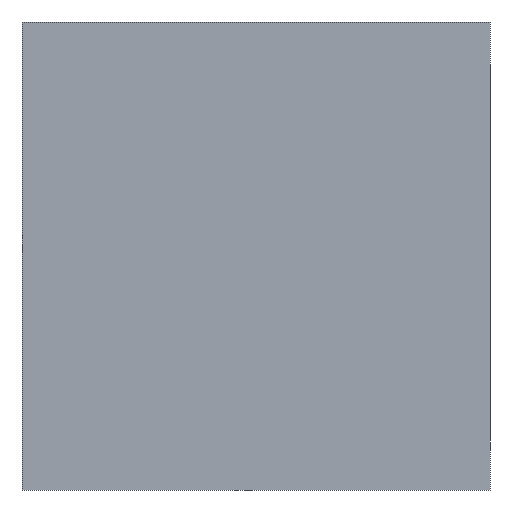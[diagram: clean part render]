
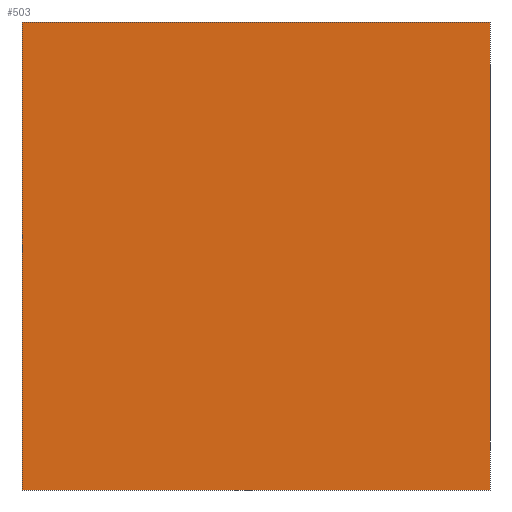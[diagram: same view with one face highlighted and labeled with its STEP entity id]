
A CAD part, front view. The second image highlights one B-rep face of the part: STEP entity #503.
In plain terms, the highlighted planar face has unit normal (0, -1, 0).
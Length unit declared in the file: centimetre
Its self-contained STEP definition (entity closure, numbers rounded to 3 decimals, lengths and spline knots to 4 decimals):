
#7 = CARTESIAN_POINT ( 'NONE',  ( 1000., 0., 1000. ) ) ;
#14 = EDGE_CURVE ( 'NONE', #297, #351, #250, .T. ) ;
#30 = CARTESIAN_POINT ( 'NONE',  ( 1000., 0., 1000. ) ) ;
#32 = CARTESIAN_POINT ( 'NONE',  ( 0., 0., 0. ) ) ;
#83 = DIRECTION ( 'NONE',  ( 0., 0., -1. ) ) ;
#96 = CARTESIAN_POINT ( 'NONE',  ( 1000., 0., 0. ) ) ;
#156 = VERTEX_POINT ( 'NONE', #96 ) ;
#169 = DIRECTION ( 'NONE',  ( 0., 1., 0. ) ) ;
#187 = ORIENTED_EDGE ( 'NONE', *, *, #443, .F. ) ;
#207 = LINE ( 'NONE', #408, #482 ) ;
#212 = FACE_OUTER_BOUND ( 'NONE', #267, .T. ) ;
#250 = LINE ( 'NONE', #283, #259 ) ;
#251 = PLANE ( 'NONE',  #365 ) ;
#253 = ORIENTED_EDGE ( 'NONE', *, *, #489, .F. ) ;
#259 = VECTOR ( 'NONE', #495, 100. ) ;
#267 = EDGE_LOOP ( 'NONE', ( #305, #187, #253, #292 ) ) ;
#283 = CARTESIAN_POINT ( 'NONE',  ( 0., 0., 1000. ) ) ;
#292 = ORIENTED_EDGE ( 'NONE', *, *, #14, .T. ) ;
#297 = VERTEX_POINT ( 'NONE', #467 ) ;
#305 = ORIENTED_EDGE ( 'NONE', *, *, #501, .T. ) ;
#320 = LINE ( 'NONE', #7, #328 ) ;
#328 = VECTOR ( 'NONE', #83, 100. ) ;
#344 = DIRECTION ( 'NONE',  ( 1., 0., 0. ) ) ;
#351 = VERTEX_POINT ( 'NONE', #32 ) ;
#365 = AXIS2_PLACEMENT_3D ( 'NONE', #427, #169, #510 ) ;
#373 = VECTOR ( 'NONE', #344, 100. ) ;
#375 = VERTEX_POINT ( 'NONE', #30 ) ;
#384 = LINE ( 'NONE', #514, #373 ) ;
#408 = CARTESIAN_POINT ( 'NONE',  ( 0., 0., 1000. ) ) ;
#427 = CARTESIAN_POINT ( 'NONE',  ( 0., 0., 1000. ) ) ;
#443 = EDGE_CURVE ( 'NONE', #375, #156, #320, .T. ) ;
#450 = DIRECTION ( 'NONE',  ( 1., 0., 0. ) ) ;
#467 = CARTESIAN_POINT ( 'NONE',  ( 0., 0., 1000. ) ) ;
#482 = VECTOR ( 'NONE', #450, 100. ) ;
#489 = EDGE_CURVE ( 'NONE', #297, #375, #207, .T. ) ;
#495 = DIRECTION ( 'NONE',  ( 0., 0., -1. ) ) ;
#501 = EDGE_CURVE ( 'NONE', #351, #156, #384, .T. ) ;
#503 = ADVANCED_FACE ( 'NONE', ( #212 ), #251, .F. ) ;
#510 = DIRECTION ( 'NONE',  ( 0., 0., 1. ) ) ;
#514 = CARTESIAN_POINT ( 'NONE',  ( 0., 0., 0. ) ) ;
